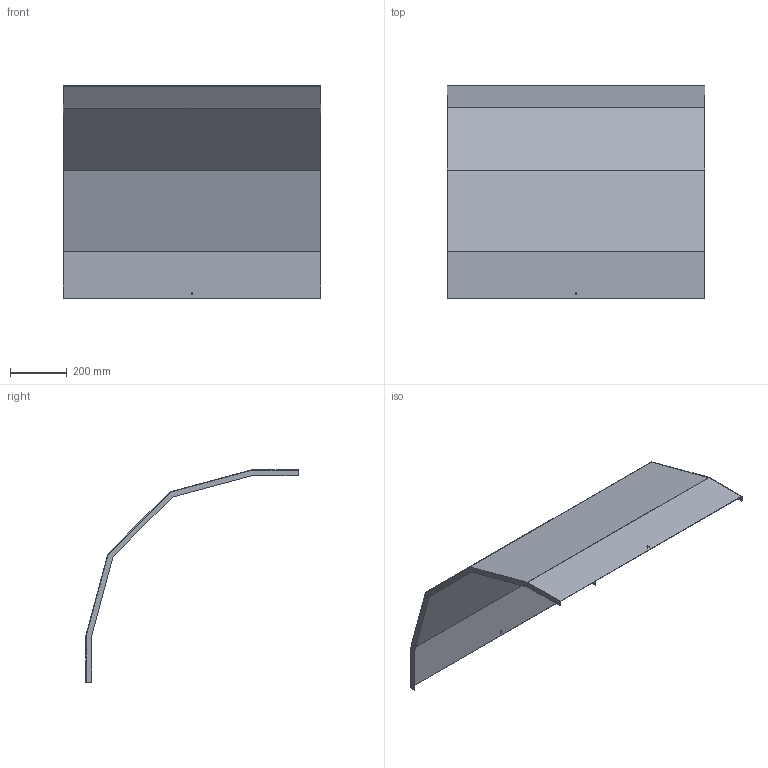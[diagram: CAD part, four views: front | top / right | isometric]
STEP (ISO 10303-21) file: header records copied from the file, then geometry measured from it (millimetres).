
FILE_DESCRIPTION (( 'STEP AP214' ), '1' );
FILE_NAME ('33N5C900.step', '2025-02-21T10:43:06', ( '' ), ( '' ), 'SwSTEP 2.0', 'SolidWorks 2023', '' );
FILE_SCHEMA (( 'AUTOMOTIVE_DESIGN' ));
Length unit declared in the file: millimetre
Products named in the file (1): 33N5C900
Bounding box: 903 x 745.38 x 745.38 mm (x, y, z)
Volume: 1730092.1 mm3; surface area: 2313297.1 mm2
Topology: 1 solids, 1 shells, 34 faces, 96 edges, 64 vertices
Faces by surface type: plane 34
Entity records: 1111 total; most frequent: CARTESIAN_POINT 195, ORIENTED_EDGE 192, DIRECTION 166, VECTOR 96, EDGE_CURVE 96, LINE 96, VERTEX_POINT 64, EDGE_LOOP 38
